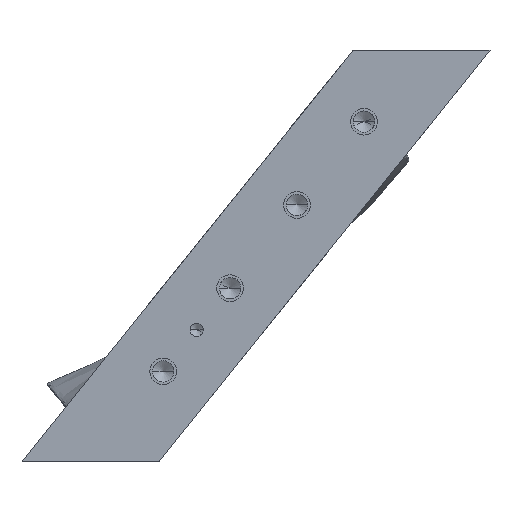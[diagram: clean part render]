
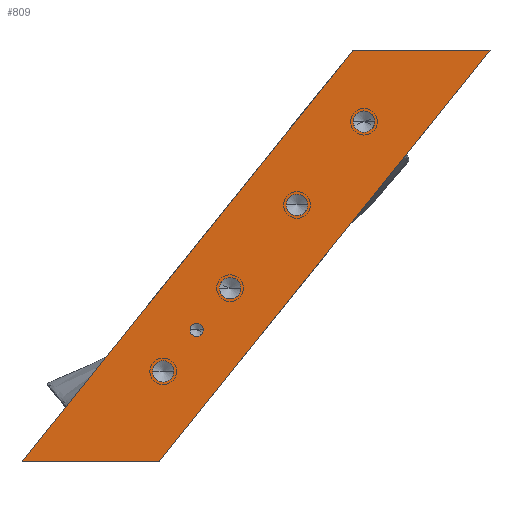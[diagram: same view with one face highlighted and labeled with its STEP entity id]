
A CAD part, left-side view. The second image highlights one B-rep face of the part: STEP entity #809.
In plain terms, the highlighted planar face has unit normal (-1, 0, 0).
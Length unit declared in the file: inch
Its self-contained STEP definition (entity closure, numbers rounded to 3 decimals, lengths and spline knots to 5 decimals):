
#214=DIRECTION('',(0.,0.626,-0.779));
#215=VECTOR('',#214,4.94703);
#216=CARTESIAN_POINT('',(6.34523,-2.322,9.32097));
#217=LINE('',#216,#215);
#218=DIRECTION('',(0.,-0.626,0.779));
#219=VECTOR('',#218,4.94703);
#220=CARTESIAN_POINT('',(6.34523,2.06003,5.46497));
#221=LINE('',#220,#219);
#222=DIRECTION('',(0.,-1.,0.));
#223=VECTOR('',#222,1.28294);
#224=CARTESIAN_POINT('',(6.34523,-1.03906,9.32097));
#225=LINE('',#224,#223);
#226=CARTESIAN_POINT('',(6.34523,0.73758,6.31226));
#227=DIRECTION('',(-1.,0.,0.));
#228=DIRECTION('',(0.,1.,0.));
#229=AXIS2_PLACEMENT_3D('',#226,#227,#228);
#231=CARTESIAN_POINT('',(6.34523,0.73758,6.31226));
#232=DIRECTION('',(-1.,0.,0.));
#233=DIRECTION('',(0.,-1.,0.));
#234=AXIS2_PLACEMENT_3D('',#231,#232,#233);
#236=CARTESIAN_POINT('',(6.34523,0.11113,7.09172));
#237=DIRECTION('',(-1.,0.,0.));
#238=DIRECTION('',(0.,1.,0.));
#239=AXIS2_PLACEMENT_3D('',#236,#237,#238);
#241=CARTESIAN_POINT('',(6.34523,0.11113,7.09172));
#242=DIRECTION('',(-1.,0.,0.));
#243=DIRECTION('',(0.,-1.,0.));
#244=AXIS2_PLACEMENT_3D('',#241,#242,#243);
#246=CARTESIAN_POINT('',(6.34523,-0.51532,7.87118));
#247=DIRECTION('',(-1.,0.,0.));
#248=DIRECTION('',(0.,1.,0.));
#249=AXIS2_PLACEMENT_3D('',#246,#247,#248);
#251=CARTESIAN_POINT('',(6.34523,-0.51532,7.87118));
#252=DIRECTION('',(-1.,0.,0.));
#253=DIRECTION('',(0.,-1.,0.));
#254=AXIS2_PLACEMENT_3D('',#251,#252,#253);
#256=CARTESIAN_POINT('',(6.34523,-1.14178,8.65064));
#257=DIRECTION('',(-1.,0.,0.));
#258=DIRECTION('',(0.,1.,0.));
#259=AXIS2_PLACEMENT_3D('',#256,#257,#258);
#261=CARTESIAN_POINT('',(6.34523,-1.14178,8.65064));
#262=DIRECTION('',(-1.,0.,0.));
#263=DIRECTION('',(0.,-1.,0.));
#264=AXIS2_PLACEMENT_3D('',#261,#262,#263);
#266=CARTESIAN_POINT('',(6.34523,0.42436,6.70199));
#267=DIRECTION('',(-1.,0.,0.));
#268=DIRECTION('',(0.,1.,0.));
#269=AXIS2_PLACEMENT_3D('',#266,#267,#268);
#271=CARTESIAN_POINT('',(6.34523,0.42436,6.70199));
#272=DIRECTION('',(-1.,0.,0.));
#273=DIRECTION('',(0.,-1.,0.));
#274=AXIS2_PLACEMENT_3D('',#271,#272,#273);
#289=DIRECTION('',(0.,-1.,0.));
#290=VECTOR('',#289,1.28294);
#291=CARTESIAN_POINT('',(6.34523,2.06003,5.46497));
#292=LINE('',#291,#290);
#626=CARTESIAN_POINT('',(6.34523,-2.322,9.32097));
#628=VERTEX_POINT('',#626);
#630=CARTESIAN_POINT('',(6.34523,-1.03906,9.32097));
#631=VERTEX_POINT('',#630);
#638=CARTESIAN_POINT('',(6.34523,0.77708,5.46497));
#639=VERTEX_POINT('',#638);
#640=CARTESIAN_POINT('',(6.34523,2.06003,5.46497));
#641=VERTEX_POINT('',#640);
#642=CARTESIAN_POINT('',(6.34523,0.83808,6.31226));
#643=CARTESIAN_POINT('',(6.34523,0.63708,6.31226));
#644=VERTEX_POINT('',#642);
#645=VERTEX_POINT('',#643);
#646=CARTESIAN_POINT('',(6.34523,0.21163,7.09172));
#647=CARTESIAN_POINT('',(6.34523,0.01063,7.09172));
#648=VERTEX_POINT('',#646);
#649=VERTEX_POINT('',#647);
#650=CARTESIAN_POINT('',(6.34523,-0.41482,7.87118));
#651=CARTESIAN_POINT('',(6.34523,-0.61582,7.87118));
#652=VERTEX_POINT('',#650);
#653=VERTEX_POINT('',#651);
#654=CARTESIAN_POINT('',(6.34523,-1.04128,8.65064));
#655=CARTESIAN_POINT('',(6.34523,-1.24228,8.65064));
#656=VERTEX_POINT('',#654);
#657=VERTEX_POINT('',#655);
#658=CARTESIAN_POINT('',(6.34523,0.48686,6.70199));
#659=CARTESIAN_POINT('',(6.34523,0.36186,6.70199));
#660=VERTEX_POINT('',#658);
#661=VERTEX_POINT('',#659);
#767=CARTESIAN_POINT('',(6.34523,-0.13099,7.39297));
#768=DIRECTION('',(1.,0.,0.));
#769=DIRECTION('',(0.,-1.,0.));
#770=AXIS2_PLACEMENT_3D('',#767,#768,#769);
#771=PLANE('',#770);
#772=ORIENTED_EDGE('',*,*,#723,.T.);
#774=ORIENTED_EDGE('',*,*,#773,.F.);
#775=ORIENTED_EDGE('',*,*,#760,.T.);
#776=ORIENTED_EDGE('',*,*,#703,.T.);
#777=EDGE_LOOP('',(#772,#774,#775,#776));
#778=FACE_OUTER_BOUND('',#777,.F.);
#780=ORIENTED_EDGE('',*,*,#779,.T.);
#782=ORIENTED_EDGE('',*,*,#781,.T.);
#783=EDGE_LOOP('',(#780,#782));
#784=FACE_BOUND('',#783,.F.);
#786=ORIENTED_EDGE('',*,*,#785,.T.);
#788=ORIENTED_EDGE('',*,*,#787,.T.);
#789=EDGE_LOOP('',(#786,#788));
#790=FACE_BOUND('',#789,.F.);
#792=ORIENTED_EDGE('',*,*,#791,.T.);
#794=ORIENTED_EDGE('',*,*,#793,.T.);
#795=EDGE_LOOP('',(#792,#794));
#796=FACE_BOUND('',#795,.F.);
#798=ORIENTED_EDGE('',*,*,#797,.T.);
#800=ORIENTED_EDGE('',*,*,#799,.T.);
#801=EDGE_LOOP('',(#798,#800));
#802=FACE_BOUND('',#801,.F.);
#804=ORIENTED_EDGE('',*,*,#803,.T.);
#806=ORIENTED_EDGE('',*,*,#805,.T.);
#807=EDGE_LOOP('',(#804,#806));
#808=FACE_BOUND('',#807,.F.);
#809=ADVANCED_FACE('',(#778,#784,#790,#796,#802,#808),#771,.F.);
#230=CIRCLE('',#229,0.1005);
#235=CIRCLE('',#234,0.1005);
#240=CIRCLE('',#239,0.1005);
#245=CIRCLE('',#244,0.1005);
#250=CIRCLE('',#249,0.1005);
#255=CIRCLE('',#254,0.1005);
#260=CIRCLE('',#259,0.1005);
#265=CIRCLE('',#264,0.1005);
#270=CIRCLE('',#269,0.0625);
#275=CIRCLE('',#274,0.0625);
#703=EDGE_CURVE('',#631,#628,#225,.T.);
#723=EDGE_CURVE('',#628,#639,#217,.T.);
#760=EDGE_CURVE('',#641,#631,#221,.T.);
#773=EDGE_CURVE('',#641,#639,#292,.T.);
#779=EDGE_CURVE('',#644,#645,#230,.T.);
#781=EDGE_CURVE('',#645,#644,#235,.T.);
#785=EDGE_CURVE('',#648,#649,#240,.T.);
#787=EDGE_CURVE('',#649,#648,#245,.T.);
#791=EDGE_CURVE('',#652,#653,#250,.T.);
#793=EDGE_CURVE('',#653,#652,#255,.T.);
#797=EDGE_CURVE('',#656,#657,#260,.T.);
#799=EDGE_CURVE('',#657,#656,#265,.T.);
#803=EDGE_CURVE('',#660,#661,#270,.T.);
#805=EDGE_CURVE('',#661,#660,#275,.T.);
